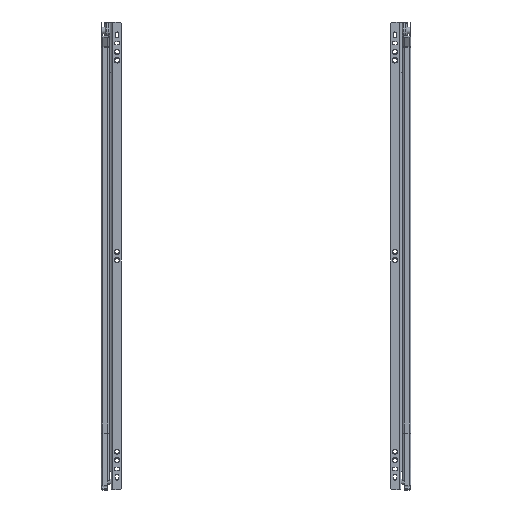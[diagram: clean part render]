
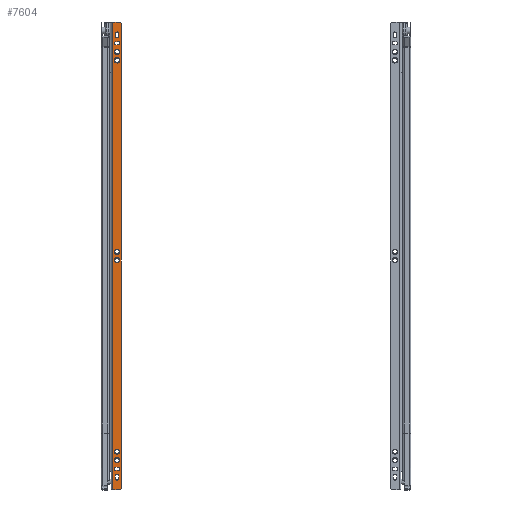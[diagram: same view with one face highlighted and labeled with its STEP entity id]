
A CAD part, front view. The second image highlights one B-rep face of the part: STEP entity #7604.
In plain terms, the highlighted planar face has unit normal (0, -1, 0.001).
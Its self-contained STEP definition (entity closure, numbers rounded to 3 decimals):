
#649=LINE('',#12479,#1159);
#650=LINE('',#12481,#1160);
#651=LINE('',#12483,#1161);
#652=LINE('',#12486,#1162);
#653=LINE('',#12497,#1163);
#654=LINE('',#12500,#1164);
#655=LINE('',#12505,#1165);
#656=LINE('',#12508,#1166);
#657=LINE('',#12513,#1167);
#658=LINE('',#12516,#1168);
#659=LINE('',#12521,#1169);
#660=LINE('',#12524,#1170);
#1159=VECTOR('',#10176,8.);
#1160=VECTOR('',#10177,550.);
#1161=VECTOR('',#10178,8.);
#1162=VECTOR('',#10181,546.);
#1163=VECTOR('',#10190,2.5);
#1164=VECTOR('',#10193,2.5);
#1165=VECTOR('',#10196,2.7);
#1166=VECTOR('',#10199,2.7);
#1167=VECTOR('',#10202,3.);
#1168=VECTOR('',#10205,3.);
#1169=VECTOR('',#10208,3.);
#1170=VECTOR('',#10211,3.);
#1427=PLANE('',#8343);
#1626=FACE_BOUND('',#2606,.T.);
#1627=FACE_BOUND('',#2607,.T.);
#1628=FACE_BOUND('',#2608,.T.);
#1629=FACE_BOUND('',#2609,.T.);
#1630=FACE_BOUND('',#2610,.T.);
#1631=FACE_BOUND('',#2611,.T.);
#1632=FACE_BOUND('',#2612,.T.);
#1633=FACE_BOUND('',#2613,.T.);
#1634=FACE_BOUND('',#2614,.T.);
#1635=FACE_BOUND('',#2615,.T.);
#2024=FACE_OUTER_BOUND('',#2605,.T.);
#2605=EDGE_LOOP('',(#6187,#6188,#6189,#6190,#6191,#6192));
#2606=EDGE_LOOP('',(#6193));
#2607=EDGE_LOOP('',(#6194));
#2608=EDGE_LOOP('',(#6195));
#2609=EDGE_LOOP('',(#6196,#6197,#6198,#6199));
#2610=EDGE_LOOP('',(#6200,#6201,#6202,#6203));
#2611=EDGE_LOOP('',(#6204,#6205,#6206,#6207));
#2612=EDGE_LOOP('',(#6208,#6209,#6210,#6211));
#2613=EDGE_LOOP('',(#6212));
#2614=EDGE_LOOP('',(#6213));
#2615=EDGE_LOOP('',(#6214));
#3124=CIRCLE('',#8342,3.2);
#3125=CIRCLE('',#8344,2.);
#3126=CIRCLE('',#8345,2.);
#3127=CIRCLE('',#8346,3.1);
#3128=CIRCLE('',#8347,3.1);
#3129=CIRCLE('',#8348,3.2);
#3130=CIRCLE('',#8349,2.);
#3131=CIRCLE('',#8350,2.);
#3132=CIRCLE('',#8351,1.9);
#3133=CIRCLE('',#8352,1.9);
#3134=CIRCLE('',#8353,1.9);
#3135=CIRCLE('',#8354,1.9);
#3136=CIRCLE('',#8355,1.9);
#3137=CIRCLE('',#8356,1.9);
#3138=CIRCLE('',#8357,3.1);
#3139=CIRCLE('',#8358,3.1);
#3694=VERTEX_POINT('',#12472);
#3695=VERTEX_POINT('',#12475);
#3696=VERTEX_POINT('',#12476);
#3697=VERTEX_POINT('',#12478);
#3698=VERTEX_POINT('',#12480);
#3699=VERTEX_POINT('',#12482);
#3700=VERTEX_POINT('',#12484);
#3701=VERTEX_POINT('',#12487);
#3702=VERTEX_POINT('',#12489);
#3703=VERTEX_POINT('',#12491);
#3704=VERTEX_POINT('',#12493);
#3705=VERTEX_POINT('',#12494);
#3706=VERTEX_POINT('',#12496);
#3707=VERTEX_POINT('',#12498);
#3708=VERTEX_POINT('',#12501);
#3709=VERTEX_POINT('',#12502);
#3710=VERTEX_POINT('',#12504);
#3711=VERTEX_POINT('',#12506);
#3712=VERTEX_POINT('',#12509);
#3713=VERTEX_POINT('',#12510);
#3714=VERTEX_POINT('',#12512);
#3715=VERTEX_POINT('',#12514);
#3716=VERTEX_POINT('',#12517);
#3717=VERTEX_POINT('',#12518);
#3718=VERTEX_POINT('',#12520);
#3719=VERTEX_POINT('',#12522);
#3720=VERTEX_POINT('',#12525);
#3721=VERTEX_POINT('',#12527);
#4574=EDGE_CURVE('',#3694,#3694,#3124,.T.);
#4575=EDGE_CURVE('',#3695,#3696,#3125,.T.);
#4576=EDGE_CURVE('',#3697,#3695,#649,.T.);
#4577=EDGE_CURVE('',#3698,#3697,#650,.T.);
#4578=EDGE_CURVE('',#3698,#3699,#651,.T.);
#4579=EDGE_CURVE('',#3700,#3699,#3126,.T.);
#4580=EDGE_CURVE('',#3700,#3696,#652,.T.);
#4581=EDGE_CURVE('',#3701,#3701,#3127,.T.);
#4582=EDGE_CURVE('',#3702,#3702,#3128,.T.);
#4583=EDGE_CURVE('',#3703,#3703,#3129,.T.);
#4584=EDGE_CURVE('',#3704,#3705,#3130,.T.);
#4585=EDGE_CURVE('',#3705,#3706,#653,.T.);
#4586=EDGE_CURVE('',#3706,#3707,#3131,.T.);
#4587=EDGE_CURVE('',#3707,#3704,#654,.T.);
#4588=EDGE_CURVE('',#3708,#3709,#3132,.T.);
#4589=EDGE_CURVE('',#3709,#3710,#655,.T.);
#4590=EDGE_CURVE('',#3710,#3711,#3133,.T.);
#4591=EDGE_CURVE('',#3711,#3708,#656,.T.);
#4592=EDGE_CURVE('',#3712,#3713,#3134,.T.);
#4593=EDGE_CURVE('',#3713,#3714,#657,.T.);
#4594=EDGE_CURVE('',#3714,#3715,#3135,.T.);
#4595=EDGE_CURVE('',#3715,#3712,#658,.T.);
#4596=EDGE_CURVE('',#3716,#3717,#3136,.T.);
#4597=EDGE_CURVE('',#3717,#3718,#659,.T.);
#4598=EDGE_CURVE('',#3718,#3719,#3137,.T.);
#4599=EDGE_CURVE('',#3719,#3716,#660,.T.);
#4600=EDGE_CURVE('',#3720,#3720,#3138,.T.);
#4601=EDGE_CURVE('',#3721,#3721,#3139,.T.);
#6187=ORIENTED_EDGE('',*,*,#4575,.F.);
#6188=ORIENTED_EDGE('',*,*,#4576,.F.);
#6189=ORIENTED_EDGE('',*,*,#4577,.F.);
#6190=ORIENTED_EDGE('',*,*,#4578,.T.);
#6191=ORIENTED_EDGE('',*,*,#4579,.F.);
#6192=ORIENTED_EDGE('',*,*,#4580,.T.);
#6193=ORIENTED_EDGE('',*,*,#4581,.F.);
#6194=ORIENTED_EDGE('',*,*,#4582,.F.);
#6195=ORIENTED_EDGE('',*,*,#4583,.F.);
#6196=ORIENTED_EDGE('',*,*,#4584,.T.);
#6197=ORIENTED_EDGE('',*,*,#4585,.T.);
#6198=ORIENTED_EDGE('',*,*,#4586,.T.);
#6199=ORIENTED_EDGE('',*,*,#4587,.T.);
#6200=ORIENTED_EDGE('',*,*,#4588,.T.);
#6201=ORIENTED_EDGE('',*,*,#4589,.T.);
#6202=ORIENTED_EDGE('',*,*,#4590,.T.);
#6203=ORIENTED_EDGE('',*,*,#4591,.T.);
#6204=ORIENTED_EDGE('',*,*,#4592,.T.);
#6205=ORIENTED_EDGE('',*,*,#4593,.T.);
#6206=ORIENTED_EDGE('',*,*,#4594,.T.);
#6207=ORIENTED_EDGE('',*,*,#4595,.T.);
#6208=ORIENTED_EDGE('',*,*,#4596,.T.);
#6209=ORIENTED_EDGE('',*,*,#4597,.T.);
#6210=ORIENTED_EDGE('',*,*,#4598,.T.);
#6211=ORIENTED_EDGE('',*,*,#4599,.T.);
#6212=ORIENTED_EDGE('',*,*,#4600,.F.);
#6213=ORIENTED_EDGE('',*,*,#4601,.F.);
#6214=ORIENTED_EDGE('',*,*,#4574,.F.);
#7604=ADVANCED_FACE('',(#2024,#1626,#1627,#1628,#1629,#1630,#1631,#1632,
#1633,#1634,#1635),#1427,.T.);
#8342=AXIS2_PLACEMENT_3D('',#12473,#10170,#10171);
#8343=AXIS2_PLACEMENT_3D('',#12474,#10172,#10173);
#8344=AXIS2_PLACEMENT_3D('',#12477,#10174,#10175);
#8345=AXIS2_PLACEMENT_3D('',#12485,#10179,#10180);
#8346=AXIS2_PLACEMENT_3D('',#12488,#10182,#10183);
#8347=AXIS2_PLACEMENT_3D('',#12490,#10184,#10185);
#8348=AXIS2_PLACEMENT_3D('',#12492,#10186,#10187);
#8349=AXIS2_PLACEMENT_3D('',#12495,#10188,#10189);
#8350=AXIS2_PLACEMENT_3D('',#12499,#10191,#10192);
#8351=AXIS2_PLACEMENT_3D('',#12503,#10194,#10195);
#8352=AXIS2_PLACEMENT_3D('',#12507,#10197,#10198);
#8353=AXIS2_PLACEMENT_3D('',#12511,#10200,#10201);
#8354=AXIS2_PLACEMENT_3D('',#12515,#10203,#10204);
#8355=AXIS2_PLACEMENT_3D('',#12519,#10206,#10207);
#8356=AXIS2_PLACEMENT_3D('',#12523,#10209,#10210);
#8357=AXIS2_PLACEMENT_3D('',#12526,#10212,#10213);
#8358=AXIS2_PLACEMENT_3D('',#12528,#10214,#10215);
#10170=DIRECTION('center_axis',(0.,-1.,0.));
#10171=DIRECTION('ref_axis',(-1.,0.,0.));
#10172=DIRECTION('center_axis',(0.,-1.,0.));
#10173=DIRECTION('ref_axis',(1.,0.,0.));
#10174=DIRECTION('center_axis',(0.,1.,0.));
#10175=DIRECTION('ref_axis',(-0.707,0.,0.707));
#10176=DIRECTION('',(0.,0.,1.));
#10177=DIRECTION('',(-1.,0.,0.));
#10178=DIRECTION('',(0.,0.,1.));
#10179=DIRECTION('center_axis',(0.,1.,0.));
#10180=DIRECTION('ref_axis',(0.707,0.,0.707));
#10181=DIRECTION('',(-1.,0.,0.));
#10182=DIRECTION('center_axis',(0.,-1.,0.));
#10183=DIRECTION('ref_axis',(-1.,0.,0.));
#10184=DIRECTION('center_axis',(0.,-1.,0.));
#10185=DIRECTION('ref_axis',(-1.,0.,0.));
#10186=DIRECTION('center_axis',(0.,-1.,0.));
#10187=DIRECTION('ref_axis',(-1.,0.,0.));
#10188=DIRECTION('center_axis',(0.,1.,0.));
#10189=DIRECTION('ref_axis',(0.,0.,1.));
#10190=DIRECTION('',(-1.,0.,0.));
#10191=DIRECTION('center_axis',(0.,1.,0.));
#10192=DIRECTION('ref_axis',(0.,0.,-1.));
#10193=DIRECTION('',(1.,0.,0.));
#10194=DIRECTION('center_axis',(0.,1.,0.));
#10195=DIRECTION('ref_axis',(1.,0.,0.));
#10196=DIRECTION('',(0.,0.,1.));
#10197=DIRECTION('center_axis',(0.,1.,0.));
#10198=DIRECTION('ref_axis',(-1.,0.,0.));
#10199=DIRECTION('',(0.,0.,-1.));
#10200=DIRECTION('center_axis',(0.,1.,0.));
#10201=DIRECTION('ref_axis',(1.,0.,0.));
#10202=DIRECTION('',(0.,0.,1.));
#10203=DIRECTION('center_axis',(0.,1.,0.));
#10204=DIRECTION('ref_axis',(-1.,0.,0.));
#10205=DIRECTION('',(0.,0.,-1.));
#10206=DIRECTION('center_axis',(0.,1.,0.));
#10207=DIRECTION('ref_axis',(0.,0.,1.));
#10208=DIRECTION('',(-1.,0.,0.));
#10209=DIRECTION('center_axis',(0.,1.,0.));
#10210=DIRECTION('ref_axis',(0.,0.,-1.));
#10211=DIRECTION('',(1.,0.,0.));
#10212=DIRECTION('center_axis',(0.,-1.,0.));
#10213=DIRECTION('ref_axis',(-1.,0.,0.));
#10214=DIRECTION('center_axis',(0.,-1.,0.));
#10215=DIRECTION('ref_axis',(-1.,0.,0.));
#12472=CARTESIAN_POINT('',(-491.8,-12.,7.1));
#12473=CARTESIAN_POINT('Origin',(-495.,-12.,7.1));
#12474=CARTESIAN_POINT('Origin',(-540.,-12.,0.));
#12475=CARTESIAN_POINT('',(-540.,-12.,10.));
#12476=CARTESIAN_POINT('',(-538.,-12.,12.));
#12477=CARTESIAN_POINT('Origin',(-538.,-12.,10.));
#12478=CARTESIAN_POINT('',(-540.,-12.,2.));
#12479=CARTESIAN_POINT('',(-540.,-12.,0.));
#12480=CARTESIAN_POINT('',(10.,-12.,2.));
#12481=CARTESIAN_POINT('',(-402.103,-12.,2.));
#12482=CARTESIAN_POINT('',(10.,-12.,10.));
#12483=CARTESIAN_POINT('',(10.,-12.,0.));
#12484=CARTESIAN_POINT('',(8.,-12.,12.));
#12485=CARTESIAN_POINT('Origin',(8.,-12.,10.));
#12486=CARTESIAN_POINT('',(10.,-12.,12.));
#12487=CARTESIAN_POINT('',(-31.9,-12.,7.1));
#12488=CARTESIAN_POINT('Origin',(-35.,-12.,7.1));
#12489=CARTESIAN_POINT('',(-256.9,-12.,7.1));
#12490=CARTESIAN_POINT('Origin',(-260.,-12.,7.1));
#12491=CARTESIAN_POINT('',(-501.8,-12.,7.1));
#12492=CARTESIAN_POINT('Origin',(-505.,-12.,7.1));
#12493=CARTESIAN_POINT('',(-523.75,-12.,9.1));
#12494=CARTESIAN_POINT('',(-523.75,-12.,5.1));
#12495=CARTESIAN_POINT('Origin',(-523.75,-12.,7.1));
#12496=CARTESIAN_POINT('',(-526.25,-12.,5.1));
#12497=CARTESIAN_POINT('',(-533.125,-12.,5.1));
#12498=CARTESIAN_POINT('',(-526.25,-12.,9.1));
#12499=CARTESIAN_POINT('Origin',(-526.25,-12.,7.1));
#12500=CARTESIAN_POINT('',(-531.875,-12.,9.1));
#12501=CARTESIAN_POINT('',(-513.1,-12.,5.75));
#12502=CARTESIAN_POINT('',(-516.9,-12.,5.75));
#12503=CARTESIAN_POINT('Origin',(-515.,-12.,5.75));
#12504=CARTESIAN_POINT('',(-516.9,-12.,8.45));
#12505=CARTESIAN_POINT('',(-516.9,-12.,4.225));
#12506=CARTESIAN_POINT('',(-513.1,-12.,8.45));
#12507=CARTESIAN_POINT('Origin',(-515.,-12.,8.45));
#12508=CARTESIAN_POINT('',(-513.1,-12.,2.875));
#12509=CARTESIAN_POINT('',(-13.1,-12.,5.6));
#12510=CARTESIAN_POINT('',(-16.9,-12.,5.6));
#12511=CARTESIAN_POINT('Origin',(-15.,-12.,5.6));
#12512=CARTESIAN_POINT('',(-16.9,-12.,8.6));
#12513=CARTESIAN_POINT('',(-16.9,-12.,4.3));
#12514=CARTESIAN_POINT('',(-13.1,-12.,8.6));
#12515=CARTESIAN_POINT('Origin',(-15.,-12.,8.6));
#12516=CARTESIAN_POINT('',(-13.1,-12.,2.8));
#12517=CARTESIAN_POINT('',(-3.5,-12.,9.));
#12518=CARTESIAN_POINT('',(-3.5,-12.,5.2));
#12519=CARTESIAN_POINT('Origin',(-3.5,-12.,7.1));
#12520=CARTESIAN_POINT('',(-6.5,-12.,5.2));
#12521=CARTESIAN_POINT('',(-273.25,-12.,5.2));
#12522=CARTESIAN_POINT('',(-6.5,-12.,9.));
#12523=CARTESIAN_POINT('Origin',(-6.5,-12.,7.1));
#12524=CARTESIAN_POINT('',(-271.75,-12.,9.));
#12525=CARTESIAN_POINT('',(-266.9,-12.,7.1));
#12526=CARTESIAN_POINT('Origin',(-270.,-12.,7.1));
#12527=CARTESIAN_POINT('',(-21.9,-12.,7.1));
#12528=CARTESIAN_POINT('Origin',(-25.,-12.,7.1));
